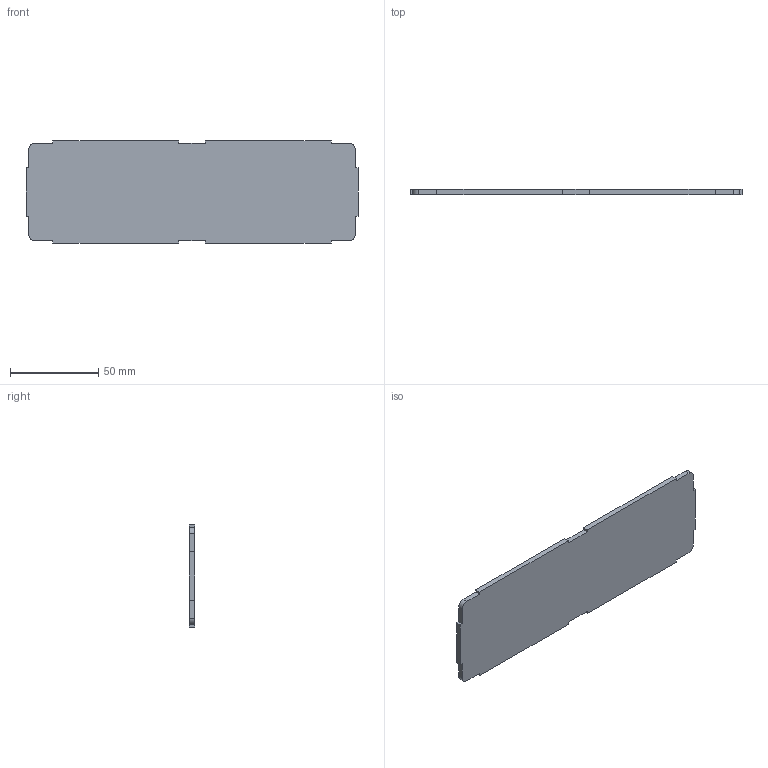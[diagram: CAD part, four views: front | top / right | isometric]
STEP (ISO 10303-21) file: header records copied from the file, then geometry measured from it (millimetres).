
FILE_DESCRIPTION (( 'STEP AP214' ), '1' );
FILE_NAME ('迖攫湮V.2.STEP', '2022-12-03T11:10:28', ( '' ), ( '' ), 'SwSTEP 2.0', 'SolidWorks 2020', '' );
FILE_SCHEMA (( 'AUTOMOTIVE_DESIGN' ));
Length unit declared in the file: millimetre
Products named in the file (1): 迖攫湮V.2
Bounding box: 188 x 3 x 58 mm (x, y, z)
Volume: 15895.3 mm3; surface area: 25512.8 mm2
Topology: 1 solids, 1 shells, 104 faces, 264 edges, 176 vertices
Faces by surface type: plane 100, cylinder 4
Entity records: 3110 total; most frequent: CARTESIAN_POINT 545, ORIENTED_EDGE 528, DIRECTION 482, EDGE_CURVE 264, LINE 256, VECTOR 256, VERTEX_POINT 176, EDGE_LOOP 118
